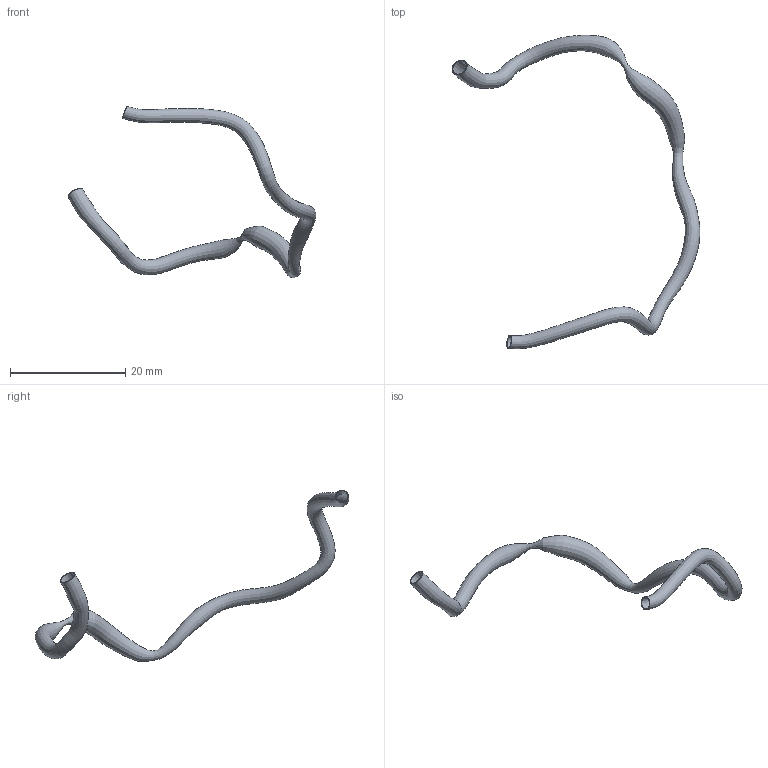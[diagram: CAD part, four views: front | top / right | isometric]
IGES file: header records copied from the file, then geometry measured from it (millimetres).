
Global section: file name: C:\Documents and Settings\Administrator\Desktop\FDA Bifurcation win\RawData_for_IGES\HRCA_Data\20010719.140840\IGES\20010719.140840.RCA.SEG.ED.igs; native system: Rhinoceros ( May 19 2006 ); preprocessor: Trout Lake IGES 012 May 19 2006; date: 100728.210813; units: centimetre
Bounding box: 43.05 x 54.51 x 29.79 mm (x, y, z)
Surface area: 1974.9 mm2 (no closed solid volume)
Topology: 0 solids, 0 shells, 4 faces, 12 edges, 8 vertices
Faces by surface type: bspline 4
